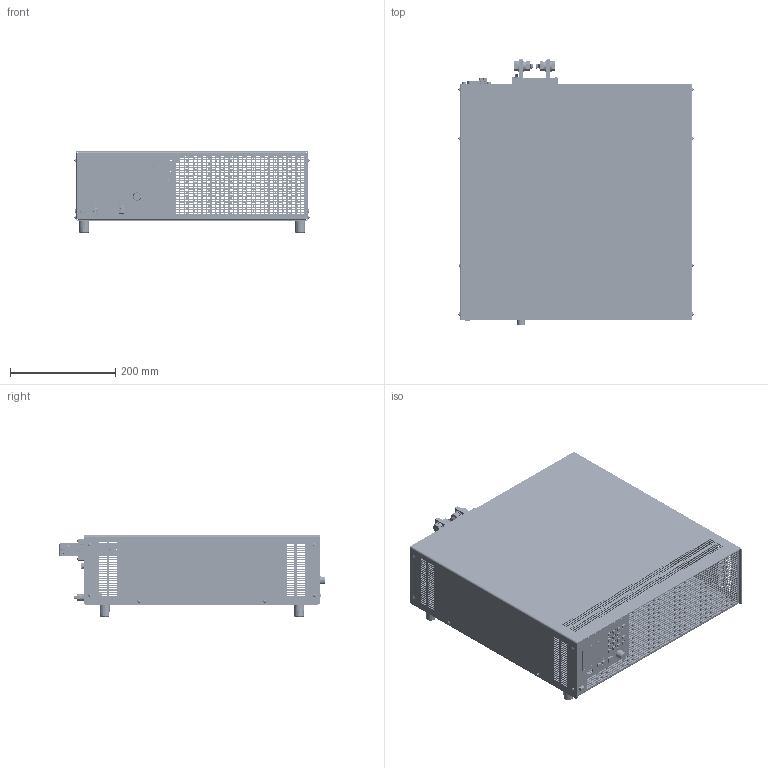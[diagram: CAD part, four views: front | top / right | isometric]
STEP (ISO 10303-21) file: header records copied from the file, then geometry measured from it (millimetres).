
FILE_DESCRIPTION(('STEP AP214'),'1');
FILE_NAME('PLI_M12_19Z_3HE_FKS25_8_SM10_BRB_3D_01.step','2019-02-04T12:50:24',(' '),(' '),'Spatial InterOp 3D',' ',' ');
FILE_SCHEMA(('AUTOMOTIVE_DESIGN { 1 0 10303 214 1 1 1 1 }'));
Length unit declared in the file: millimetre
Products named in the file (1): 1
Bounding box: 446.98 x 504.14 x 154.99 mm (x, y, z)
Volume: 650950.3 mm3; surface area: 1425286.7 mm2
Topology: 155 solids, 1774 shells, 13112 faces, 39597 edges, 28806 vertices
Faces by surface type: plane 7457, cone 2874, cylinder 2206, torus 240, bspline 205, sphere 128, extrusion 2
Entity records: 591297 total; most frequent: CARTESIAN_POINT 111681, DIRECTION 76961, ORIENTED_EDGE 67906, EDGE_CURVE 38743, VECTOR 29321, LINE 29319, VERTEX_POINT 27809, AXIS2_PLACEMENT_3D 23820
